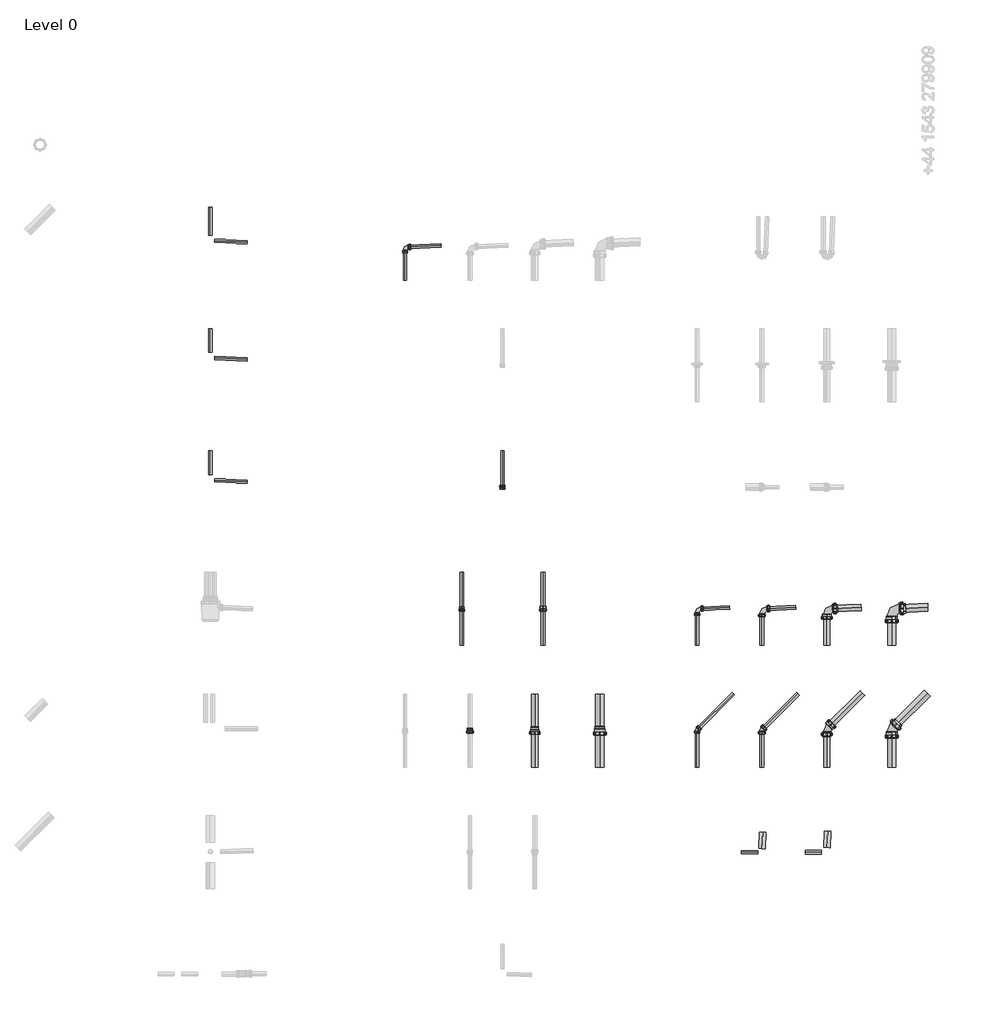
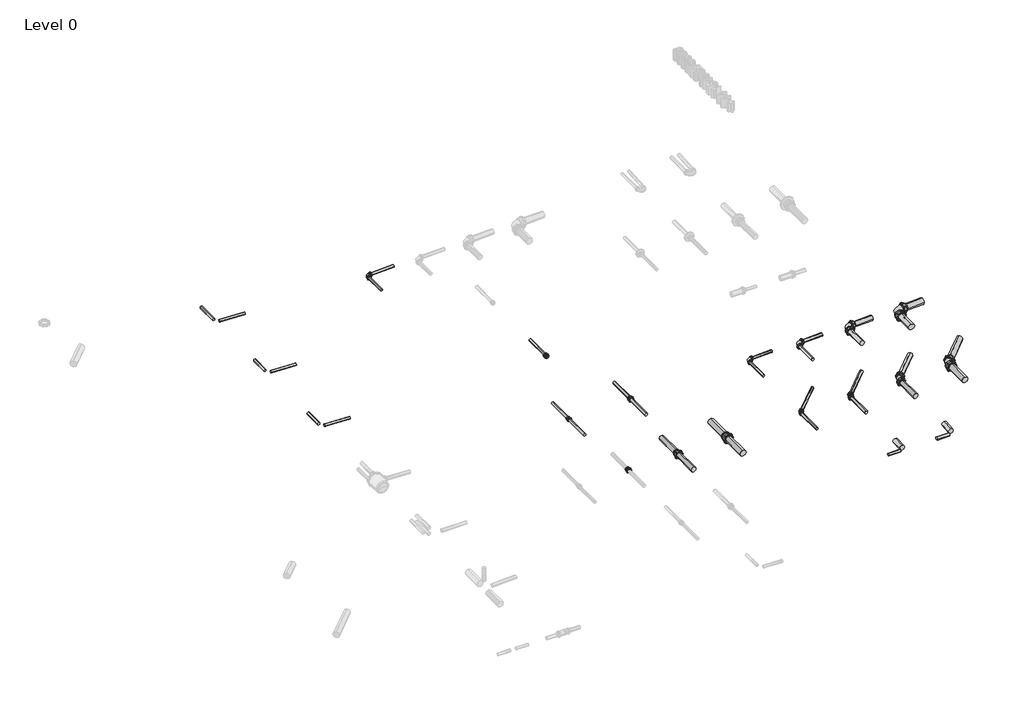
# One storey, part 4 of 5: 52 pipe fittings.
"""IFC4 building model written with IfcOpenShell, lengths in millimetres."""

from ifc_helpers import new_model, si_unit, point, frame, frame_2d, origin, place, context, project, spatial, circle_curve, trimmed, segment, composite_curve, outline, extrude, transform, mapped, element, save
from components import w151_1_5inch_x_38mm_36090209, w152_2inch_x_51mm_c30cc51f, w181_1_5inch_38mm_bc8677d7, w211_1_5inch_38mm_d5a7223a, w212_2inch_51mm_e95d25a4, w213_3inch_76mm_c7faae38, w214_4inch_102mm_c2af0c5c, w271_1_75inch_1_5inch_8b04c7d0, w291_1_5inch_38mm_fd510ec8, w292_2inch_51mm_7eba3630, w293_3inch_76mm_a8444400, w294_4inch_102mm_0dffa293, w452_2inch_51mm_18f54544, w453_3inch_76mm_8e2f73c6, w454_4inch_102mm_2515f706

model = new_model("IFC4")

# Units and contexts
model_context = context("Model", 3, world=origin())
ifc_project = project(units=[si_unit("LENGTHUNIT", "METRE", prefix="MILLI")], contexts=[model_context])

# Site, building, storey
site = spatial("IfcSite", under=ifc_project)
building = spatial("IfcBuilding", under=site)
storey = spatial("IfcBuildingStorey", under=building, Name="Level 0", Elevation=0.0)

# Pipe fittings
placement = place(None, origin())
element("IfcPipeFitting", 1, ObjectType="Vulcathene Mechanical Pipe", at=placement, inside=storey, context=model_context, shape_type="SweptSolid", body=[
    extrude(outline(composite_curve([segment(trimmed(circle_curve(frame_2d((0.0, -14857.9793828)), 20.0), [point((0.0, -14837.9793828))], [point((20.0, -14857.9793828))], False, "CARTESIAN"), True, "CONTINUOUS"), segment(trimmed(circle_curve(frame_2d((0.0, -14857.9793828)), 20.0), [point((20.0, -14857.9793828))], [point((0.0, -14877.9793828))], False, "CARTESIAN"), True, "CONTINUOUS"), segment(trimmed(circle_curve(frame_2d((0.0, -14857.9793828)), 20.0), [point((0.0, -14877.9793828))], [point((-20.0, -14857.9793828))], False, "CARTESIAN"), True, "CONTINUOUS"), segment(trimmed(circle_curve(frame_2d((0.0, -14857.9793828)), 20.0), [point((-20.0, -14857.9793828))], [point((0.0, -14837.9793828))], False, "CARTESIAN"), True, "CONTINUOUS")], self_intersect=False)), frame((0.0, 11769.5002514, 0.0), z_axis=(0.0, 1.0, 0.0), x_axis=(0.0, 0.0, 1.0)), (0.0, 0.0, 1.0), 345.1032519),
])
element("IfcPipeFitting", 2, ObjectType="Vulcathene Mechanical Pipe", at=placement, inside=storey, context=model_context, shape_type="SweptSolid", body=[
    extrude(outline(composite_curve([segment(trimmed(circle_curve(frame_2d((0.0, -20.0)), 20.0), [point((-20.0000001, -20.0))], [point((0.0, 0.0))], False, "CARTESIAN"), True, "CONTINUOUS"), segment(trimmed(circle_curve(frame_2d((0.0, -20.0)), 20.0), [point((0.0, 0.0))], [point((20.0, -20.0))], False, "CARTESIAN"), True, "CONTINUOUS"), segment(trimmed(circle_curve(frame_2d((0.0, -20.0)), 20.0), [point((20.0, -20.0))], [point((0.0, -40.0))], False, "CARTESIAN"), True, "CONTINUOUS"), segment(trimmed(circle_curve(frame_2d((0.0, -20.0)), 20.0), [point((0.0, -40.0))], [point((-20.0000001, -20.0))], False, "CARTESIAN"), True, "CONTINUOUS")], self_intersect=False)), frame((-14406.4030929, 11683.6268621, -20.0), z_axis=(-0.9990482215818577, 0.043619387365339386, 0.0), x_axis=(0.043619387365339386, 0.9990482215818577, 0.0)), (0.0, 0.0, 1.0), 400.0),
])
element("IfcPipeFitting", 3, ObjectType="Vulcathene Mechanical Pipe", at=placement, inside=storey, context=model_context, shape_type="SweptSolid", body=[
    extrude(outline(composite_curve([segment(trimmed(circle_curve(frame_2d((0.0, -14857.9793828)), 20.0), [point((0.0, -14837.9793828))], [point((20.0, -14857.9793828))], False, "CARTESIAN"), True, "CONTINUOUS"), segment(trimmed(circle_curve(frame_2d((0.0, -14857.9793828)), 20.0), [point((20.0, -14857.9793828))], [point((0.0, -14877.9793828))], False, "CARTESIAN"), True, "CONTINUOUS"), segment(trimmed(circle_curve(frame_2d((0.0, -14857.9793828)), 20.0), [point((0.0, -14877.9793828))], [point((-20.0, -14857.9793828))], False, "CARTESIAN"), True, "CONTINUOUS"), segment(trimmed(circle_curve(frame_2d((0.0, -14857.9793828)), 20.0), [point((-20.0, -14857.9793828))], [point((0.0, -14837.9793828))], False, "CARTESIAN"), True, "CONTINUOUS")], self_intersect=False)), frame((0.0, 10325.1964246, 0.0), z_axis=(0.0, 1.0, 0.0), x_axis=(0.0, 0.0, 1.0)), (0.0, 0.0, 1.0), 289.4070787),
])
element("IfcPipeFitting", 4, ObjectType="Vulcathene Mechanical Pipe", at=placement, inside=storey, context=model_context, shape_type="SweptSolid", body=[
    extrude(outline(composite_curve([segment(trimmed(circle_curve(frame_2d((0.0, -20.0)), 20.0), [point((-20.0, -20.0))], [point((0.0, 0.0))], False, "CARTESIAN"), True, "CONTINUOUS"), segment(trimmed(circle_curve(frame_2d((0.0, -20.0)), 20.0), [point((0.0, 0.0))], [point((20.0, -20.0))], False, "CARTESIAN"), True, "CONTINUOUS"), segment(trimmed(circle_curve(frame_2d((0.0, -20.0)), 20.0), [point((20.0, -20.0))], [point((0.0, -40.0))], False, "CARTESIAN"), True, "CONTINUOUS"), segment(trimmed(circle_curve(frame_2d((0.0, -20.0)), 20.0), [point((0.0, -40.0))], [point((-20.0, -20.0))], False, "CARTESIAN"), True, "CONTINUOUS")], self_intersect=False)), frame((-14406.4030929, 10239.3230353, -20.0), z_axis=(-0.9990482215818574, 0.04361938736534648, 0.0), x_axis=(0.04361938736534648, 0.9990482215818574, 0.0)), (0.0, 0.0, 1.0), 400.0),
])
element("IfcPipeFitting", 5, ObjectType="Vulcathene Mechanical Pipe", at=placement, inside=storey, context=model_context, shape_type="SweptSolid", body=[
    extrude(outline(composite_curve([segment(trimmed(circle_curve(frame_2d((0.0, -14857.9793828)), 20.0), [point((0.0, -14837.9793828))], [point((20.0, -14857.9793828))], False, "CARTESIAN"), True, "CONTINUOUS"), segment(trimmed(circle_curve(frame_2d((0.0, -14857.9793828)), 20.0), [point((20.0, -14857.9793828))], [point((0.0, -14877.9793828))], False, "CARTESIAN"), True, "CONTINUOUS"), segment(trimmed(circle_curve(frame_2d((0.0, -14857.9793828)), 20.0), [point((0.0, -14877.9793828))], [point((-20.0, -14857.9793828))], False, "CARTESIAN"), True, "CONTINUOUS"), segment(trimmed(circle_curve(frame_2d((0.0, -14857.9793828)), 20.0), [point((-20.0, -14857.9793828))], [point((0.0, -14837.9793828))], False, "CARTESIAN"), True, "CONTINUOUS")], self_intersect=False)), frame((0.0, 8817.8160033, 0.0), z_axis=(0.0, 1.0, 0.0), x_axis=(0.0, 0.0, 1.0)), (0.0, 0.0, 1.0), 296.7875),
])
element("IfcPipeFitting", 6, ObjectType="Vulcathene Mechanical Pipe", at=placement, inside=storey, context=model_context, shape_type="SweptSolid", body=[
    extrude(outline(composite_curve([segment(trimmed(circle_curve(frame_2d((0.0, -20.0)), 20.0), [point((-20.0000001, -20.0))], [point((0.0, 0.0))], False, "CARTESIAN"), True, "CONTINUOUS"), segment(trimmed(circle_curve(frame_2d((0.0, -20.0)), 20.0), [point((0.0, 0.0))], [point((20.0, -20.0))], False, "CARTESIAN"), True, "CONTINUOUS"), segment(trimmed(circle_curve(frame_2d((0.0, -20.0)), 20.0), [point((20.0, -20.0))], [point((0.0, -40.0))], False, "CARTESIAN"), True, "CONTINUOUS"), segment(trimmed(circle_curve(frame_2d((0.0, -20.0)), 20.0), [point((0.0, -40.0))], [point((-20.0000001, -20.0))], False, "CARTESIAN"), True, "CONTINUOUS")], self_intersect=False)), frame((-14406.4030929, 8731.942614, -20.0), z_axis=(-0.9990482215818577, 0.043619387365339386, 0.0), x_axis=(0.043619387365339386, 0.9990482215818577, 0.0)), (0.0, 0.0, 1.0), 400.0),
])
element("IfcPipeFitting", 7, ObjectType="Vulcathene Mechanical Pipe", at=placement, inside=storey, context=model_context, shape_type="SweptSolid", body=[
    extrude(outline(composite_curve([segment(trimmed(circle_curve(frame_2d((0.0, -12457.8061586)), 20.0), [point((0.0, -12437.8061586))], [point((20.0, -12457.8061586))], False, "CARTESIAN"), True, "CONTINUOUS"), segment(trimmed(circle_curve(frame_2d((0.0, -12457.8061586)), 20.0), [point((20.0, -12457.8061586))], [point((0.0, -12477.8061586))], False, "CARTESIAN"), True, "CONTINUOUS"), segment(trimmed(circle_curve(frame_2d((0.0, -12457.8061586)), 20.0), [point((0.0, -12477.8061586))], [point((-20.0, -12457.8061586))], False, "CARTESIAN"), True, "CONTINUOUS"), segment(trimmed(circle_curve(frame_2d((0.0, -12457.8061586)), 20.0), [point((-20.0, -12457.8061586))], [point((0.0, -12437.8061586))], False, "CARTESIAN"), True, "CONTINUOUS")], self_intersect=False)), frame((0.0, 11214.6035033, 0.0), z_axis=(0.0, 1.0, 0.0), x_axis=(0.0, 0.0, 1.0)), (0.0, 0.0, 1.0), 368.2978662),
])
element("IfcPipeFitting", 8, ObjectType="Vulcathene Mechanical Pipe", at=placement, inside=storey, context=model_context, shape_type="SweptSolid", body=[
    extrude(outline(composite_curve([segment(trimmed(circle_curve(frame_2d((0.0, 20.0)), 20.0), [point((20.0, 20.0))], [point((0.0, 0.0))], False, "CARTESIAN"), True, "CONTINUOUS"), segment(trimmed(circle_curve(frame_2d((0.0, 20.0)), 20.0), [point((0.0, 0.0))], [point((-20.0, 20.0))], False, "CARTESIAN"), True, "CONTINUOUS"), segment(trimmed(circle_curve(frame_2d((0.0, 20.0)), 20.0), [point((-20.0, 20.0))], [point((0.0, 40.0))], False, "CARTESIAN"), True, "CONTINUOUS"), segment(trimmed(circle_curve(frame_2d((0.0, 20.0)), 20.0), [point((0.0, 40.0))], [point((20.0, 20.0))], False, "CARTESIAN"), True, "CONTINUOUS")], self_intersect=False)), frame((-12417.3512586, 11625.1611092, 20.0), z_axis=(0.9990482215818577, 0.043619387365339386, 0.0), x_axis=(0.043619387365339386, -0.9990482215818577, 0.0)), (0.0, 0.0, 1.0), 401.7127644),
])
element("IfcPipeFitting", 9, ObjectType="Vulcathene Mechanical Pipe", at=placement, inside=storey, context=model_context, shape_type="SweptSolid", body=[
    extrude(outline(composite_curve([segment(trimmed(circle_curve(frame_2d((0.0, -11257.9793828)), 20.0), [point((0.0, -11237.9793828))], [point((20.0, -11257.9793828))], False, "CARTESIAN"), True, "CONTINUOUS"), segment(trimmed(circle_curve(frame_2d((0.0, -11257.9793828)), 20.0), [point((20.0, -11257.9793828))], [point((0.0, -11277.9793828))], False, "CARTESIAN"), True, "CONTINUOUS"), segment(trimmed(circle_curve(frame_2d((0.0, -11257.9793828)), 20.0), [point((0.0, -11277.9793828))], [point((-20.0, -11257.9793828))], False, "CARTESIAN"), True, "CONTINUOUS"), segment(trimmed(circle_curve(frame_2d((0.0, -11257.9793828)), 20.0), [point((-20.0, -11257.9793828))], [point((0.0, -11237.9793828))], False, "CARTESIAN"), True, "CONTINUOUS")], self_intersect=False)), frame((0.0, 8669.1035033, 0.0), z_axis=(0.0, 1.0, 0.0), x_axis=(0.0, 0.0, 1.0)), (0.0, 0.0, 1.0), 445.5),
])
element("IfcPipeFitting", 10, ObjectType="Vulcathene Mechanical Pipe", at=placement, inside=storey, context=model_context, shape_type="SweptSolid", body=[
    extrude(outline(composite_curve([segment(trimmed(circle_curve(frame_2d((0.0, -11757.9793828)), 20.0), [point((0.0, -11777.9793828))], [point((-20.0, -11757.9793828))], False, "CARTESIAN"), True, "CONTINUOUS"), segment(trimmed(circle_curve(frame_2d((0.0, -11757.9793828)), 20.0), [point((-20.0, -11757.9793828))], [point((0.0, -11737.9793828))], False, "CARTESIAN"), True, "CONTINUOUS"), segment(trimmed(circle_curve(frame_2d((0.0, -11757.9793828)), 20.0), [point((0.0, -11737.9793828))], [point((20.0, -11757.9793828))], False, "CARTESIAN"), True, "CONTINUOUS"), segment(trimmed(circle_curve(frame_2d((0.0, -11757.9793828)), 20.0), [point((20.0, -11757.9793828))], [point((0.0, -11777.9793828))], False, "CARTESIAN"), True, "CONTINUOUS")], self_intersect=False)), frame((0.0, 6714.6035033, 0.0), z_axis=(0.0, 1.0, 0.0), x_axis=(0.0, 0.0, 1.0)), (0.0, 0.0, 1.0), 450.7),
])
element("IfcPipeFitting", 11, ObjectType="Vulcathene Mechanical Pipe", at=placement, inside=storey, context=model_context, shape_type="SweptSolid", body=[
    extrude(outline(composite_curve([segment(trimmed(circle_curve(frame_2d((0.0, -10757.9793828)), 25.0), [point((0.0, -10782.9793828))], [point((-25.0, -10757.9793828))], False, "CARTESIAN"), True, "CONTINUOUS"), segment(trimmed(circle_curve(frame_2d((0.0, -10757.9793828)), 25.0), [point((-25.0, -10757.9793828))], [point((0.0, -10732.9793828))], False, "CARTESIAN"), True, "CONTINUOUS"), segment(trimmed(circle_curve(frame_2d((0.0, -10757.9793828)), 25.0), [point((0.0, -10732.9793828))], [point((25.0, -10757.9793828))], False, "CARTESIAN"), True, "CONTINUOUS"), segment(trimmed(circle_curve(frame_2d((0.0, -10757.9793828)), 25.0), [point((25.0, -10757.9793828))], [point((0.0, -10782.9793828))], False, "CARTESIAN"), True, "CONTINUOUS")], self_intersect=False)), frame((0.0, 6714.6035033, 0.0), z_axis=(0.0, 1.0, 0.0), x_axis=(0.0, 0.0, 1.0)), (0.0, 0.0, 1.0), 449.75),
])
element("IfcPipeFitting", 12, ObjectType="Vulcathene Mechanical Pipe", at=placement, inside=storey, context=model_context, shape_type="SweptSolid", body=[
    extrude(outline(composite_curve([segment(trimmed(circle_curve(frame_2d((0.0, -11757.9793828)), 20.0), [point((0.0, -11777.9793828))], [point((-20.0, -11757.9793828))], False, "CARTESIAN"), True, "CONTINUOUS"), segment(trimmed(circle_curve(frame_2d((0.0, -11757.9793828)), 20.0), [point((-20.0, -11757.9793828))], [point((0.0, -11737.9793828))], False, "CARTESIAN"), True, "CONTINUOUS"), segment(trimmed(circle_curve(frame_2d((0.0, -11757.9793828)), 20.0), [point((0.0, -11737.9793828))], [point((20.0, -11757.9793828))], False, "CARTESIAN"), True, "CONTINUOUS"), segment(trimmed(circle_curve(frame_2d((0.0, -11757.9793828)), 20.0), [point((20.0, -11757.9793828))], [point((0.0, -11777.9793828))], False, "CARTESIAN"), True, "CONTINUOUS")], self_intersect=False)), frame((0.0, 7168.0035033, 0.0), z_axis=(0.0, 1.0, 0.0), x_axis=(0.0, 0.0, 1.0)), (0.0, 0.0, 1.0), 446.6),
])
element("IfcPipeFitting", 13, ObjectType="Vulcathene Mechanical Pipe", at=placement, inside=storey, context=model_context, shape_type="SweptSolid", body=[
    extrude(outline(composite_curve([segment(trimmed(circle_curve(frame_2d((0.0, -10757.9793828)), 25.0), [point((0.0, -10782.9793828))], [point((-25.0, -10757.9793828))], False, "CARTESIAN"), True, "CONTINUOUS"), segment(trimmed(circle_curve(frame_2d((0.0, -10757.9793828)), 25.0), [point((-25.0, -10757.9793828))], [point((0.0, -10732.9793828))], False, "CARTESIAN"), True, "CONTINUOUS"), segment(trimmed(circle_curve(frame_2d((0.0, -10757.9793828)), 25.0), [point((0.0, -10732.9793828))], [point((25.0, -10757.9793828))], False, "CARTESIAN"), True, "CONTINUOUS"), segment(trimmed(circle_curve(frame_2d((0.0, -10757.9793828)), 25.0), [point((25.0, -10757.9793828))], [point((0.0, -10782.9793828))], False, "CARTESIAN"), True, "CONTINUOUS")], self_intersect=False)), frame((0.0, 7169.3535033, 0.0), z_axis=(0.0, 1.0, 0.0), x_axis=(0.0, 0.0, 1.0)), (0.0, 0.0, 1.0), 445.25),
])
element("IfcPipeFitting", 14, ObjectType="Vulcathene Mechanical Pipe", at=placement, inside=storey, context=model_context, shape_type="SweptSolid", body=[
    extrude(outline(composite_curve([segment(trimmed(circle_curve(frame_2d((0.0, -10857.9793828)), 40.0), [point((0.0, -10897.9793828))], [point((-40.0, -10857.9793828))], False, "CARTESIAN"), True, "CONTINUOUS"), segment(trimmed(circle_curve(frame_2d((0.0, -10857.9793828)), 40.0), [point((-40.0, -10857.9793828))], [point((0.0, -10817.9793828))], False, "CARTESIAN"), True, "CONTINUOUS"), segment(trimmed(circle_curve(frame_2d((0.0, -10857.9793828)), 40.0), [point((0.0, -10817.9793828))], [point((40.0, -10857.9793828))], False, "CARTESIAN"), True, "CONTINUOUS"), segment(trimmed(circle_curve(frame_2d((0.0, -10857.9793828)), 40.0), [point((40.0, -10857.9793828))], [point((0.0, -10897.9793828))], False, "CARTESIAN"), True, "CONTINUOUS")], self_intersect=False)), frame((0.0, 5214.6035033, 0.0), z_axis=(0.0, 1.0, 0.0), x_axis=(0.0, 0.0, 1.0)), (0.0, 0.0, 1.0), 458.4),
])
element("IfcPipeFitting", 15, ObjectType="Vulcathene Mechanical Pipe", at=placement, inside=storey, context=model_context, shape_type="SweptSolid", body=[
    extrude(outline(composite_curve([segment(trimmed(circle_curve(frame_2d((0.0, -10057.9793828)), 50.0), [point((0.0, -10107.9793828))], [point((-50.0, -10057.9793828))], False, "CARTESIAN"), True, "CONTINUOUS"), segment(trimmed(circle_curve(frame_2d((0.0, -10057.9793828)), 50.0), [point((-50.0, -10057.9793828))], [point((0.0, -10007.9793828))], False, "CARTESIAN"), True, "CONTINUOUS"), segment(trimmed(circle_curve(frame_2d((0.0, -10057.9793828)), 50.0), [point((0.0, -10007.9793828))], [point((50.0, -10057.9793828))], False, "CARTESIAN"), True, "CONTINUOUS"), segment(trimmed(circle_curve(frame_2d((0.0, -10057.9793828)), 50.0), [point((50.0, -10057.9793828))], [point((0.0, -10107.9793828))], False, "CARTESIAN"), True, "CONTINUOUS")], self_intersect=False)), frame((0.0, 5214.6035033, 0.0), z_axis=(0.0, 1.0, 0.0), x_axis=(0.0, 0.0, 1.0)), (0.0, 0.0, 1.0), 467.3),
])
element("IfcPipeFitting", 16, ObjectType="Vulcathene Mechanical Pipe", at=placement, inside=storey, context=model_context, shape_type="SweptSolid", body=[
    extrude(outline(composite_curve([segment(trimmed(circle_curve(frame_2d((0.0, -10857.9793828)), 40.0), [point((0.0, -10897.9793828))], [point((-40.0, -10857.9793828))], False, "CARTESIAN"), True, "CONTINUOUS"), segment(trimmed(circle_curve(frame_2d((0.0, -10857.9793828)), 40.0), [point((-40.0, -10857.9793828))], [point((0.0, -10817.9793828))], False, "CARTESIAN"), True, "CONTINUOUS"), segment(trimmed(circle_curve(frame_2d((0.0, -10857.9793828)), 40.0), [point((0.0, -10817.9793828))], [point((40.0, -10857.9793828))], False, "CARTESIAN"), True, "CONTINUOUS"), segment(trimmed(circle_curve(frame_2d((0.0, -10857.9793828)), 40.0), [point((40.0, -10857.9793828))], [point((0.0, -10897.9793828))], False, "CARTESIAN"), True, "CONTINUOUS")], self_intersect=False)), frame((0.0, 5711.1035033, 0.0), z_axis=(0.0, 1.0, 0.0), x_axis=(0.0, 0.0, 1.0)), (0.0, 0.0, 1.0), 403.5),
])
element("IfcPipeFitting", 17, ObjectType="Vulcathene Mechanical Pipe", at=placement, inside=storey, context=model_context, shape_type="SweptSolid", body=[
    extrude(outline(composite_curve([segment(trimmed(circle_curve(frame_2d((0.0, -10057.9793828)), 50.0), [point((0.0, -10107.9793828))], [point((-50.0, -10057.9793828))], False, "CARTESIAN"), True, "CONTINUOUS"), segment(trimmed(circle_curve(frame_2d((0.0, -10057.9793828)), 50.0), [point((-50.0, -10057.9793828))], [point((0.0, -10007.9793828))], False, "CARTESIAN"), True, "CONTINUOUS"), segment(trimmed(circle_curve(frame_2d((0.0, -10057.9793828)), 50.0), [point((0.0, -10007.9793828))], [point((50.0, -10057.9793828))], False, "CARTESIAN"), True, "CONTINUOUS"), segment(trimmed(circle_curve(frame_2d((0.0, -10057.9793828)), 50.0), [point((50.0, -10057.9793828))], [point((0.0, -10107.9793828))], False, "CARTESIAN"), True, "CONTINUOUS")], self_intersect=False)), frame((0.0, 5720.1035033, 0.0), z_axis=(0.0, 1.0, 0.0), x_axis=(0.0, 0.0, 1.0)), (0.0, 0.0, 1.0), 394.5),
])
element("IfcPipeFitting", 18, ObjectType="Vulcathene Mechanical Pipe", at=placement, inside=storey, context=model_context, shape_type="SweptSolid", body=[
    extrude(outline(composite_curve([segment(trimmed(circle_curve(frame_2d((0.0, -8857.9793828)), 20.0), [point((0.0, -8837.9793828))], [point((20.0, -8857.9793828))], False, "CARTESIAN"), True, "CONTINUOUS"), segment(trimmed(circle_curve(frame_2d((0.0, -8857.9793828)), 20.0), [point((20.0, -8857.9793828))], [point((0.0, -8877.9793828))], False, "CARTESIAN"), True, "CONTINUOUS"), segment(trimmed(circle_curve(frame_2d((0.0, -8857.9793828)), 20.0), [point((0.0, -8877.9793828))], [point((-20.0, -8857.9793828))], False, "CARTESIAN"), True, "CONTINUOUS"), segment(trimmed(circle_curve(frame_2d((0.0, -8857.9793828)), 20.0), [point((-20.0, -8857.9793828))], [point((0.0, -8837.9793828))], False, "CARTESIAN"), True, "CONTINUOUS")], self_intersect=False)), frame((0.0, 6714.6035033, 0.0), z_axis=(0.0, 1.0, 0.0), x_axis=(0.0, 0.0, 1.0)), (0.0, 0.0, 1.0), 398.5920922),
])
element("IfcPipeFitting", 19, ObjectType="Vulcathene Mechanical Pipe", at=placement, inside=storey, context=model_context, shape_type="SweptSolid", body=[
    extrude(outline(composite_curve([segment(trimmed(circle_curve(frame_2d((0.0, 20.0)), 20.0), [point((20.0000001, 20.0))], [point((0.0, 0.0))], False, "CARTESIAN"), True, "CONTINUOUS"), segment(trimmed(circle_curve(frame_2d((0.0, 20.0)), 20.0), [point((0.0, 0.0))], [point((-20.0, 20.0))], False, "CARTESIAN"), True, "CONTINUOUS"), segment(trimmed(circle_curve(frame_2d((0.0, 20.0)), 20.0), [point((-20.0, 20.0))], [point((0.0, 40.0))], False, "CARTESIAN"), True, "CONTINUOUS"), segment(trimmed(circle_curve(frame_2d((0.0, 20.0)), 20.0), [point((0.0, 40.0))], [point((20.0000001, 20.0))], False, "CARTESIAN"), True, "CONTINUOUS")], self_intersect=False)), frame((-8806.6217439, 7166.844485, 20.0), z_axis=(0.9990482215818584, 0.04361938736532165, 0.0), x_axis=(0.04361938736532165, -0.9990482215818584, 0.0)), (0.0, 0.0, 1.0), 350.0),
])
element("IfcPipeFitting", 20, ObjectType="Vulcathene Mechanical Pipe", at=placement, inside=storey, context=model_context, shape_type="SweptSolid", body=[
    extrude(outline(composite_curve([segment(trimmed(circle_curve(frame_2d((0.0, -8057.9793828)), 25.0), [point((0.0, -8032.9793828))], [point((25.0, -8057.9793828))], False, "CARTESIAN"), True, "CONTINUOUS"), segment(trimmed(circle_curve(frame_2d((0.0, -8057.9793828)), 25.0), [point((25.0, -8057.9793828))], [point((0.0, -8082.9793828))], False, "CARTESIAN"), True, "CONTINUOUS"), segment(trimmed(circle_curve(frame_2d((0.0, -8057.9793828)), 25.0), [point((0.0, -8082.9793828))], [point((-25.0, -8057.9793828))], False, "CARTESIAN"), True, "CONTINUOUS"), segment(trimmed(circle_curve(frame_2d((0.0, -8057.9793828)), 25.0), [point((-25.0, -8057.9793828))], [point((0.0, -8032.9793828))], False, "CARTESIAN"), True, "CONTINUOUS")], self_intersect=False)), frame((0.0, 6714.6035033, 0.0), z_axis=(0.0, 1.0, 0.0), x_axis=(0.0, 0.0, 1.0)), (0.0, 0.0, 1.0), 384.6156328),
])
element("IfcPipeFitting", 21, ObjectType="Vulcathene Mechanical Pipe", at=placement, inside=storey, context=model_context, shape_type="SweptSolid", body=[
    extrude(outline(composite_curve([segment(trimmed(circle_curve(frame_2d((0.0, 25.0)), 25.0), [point((25.0000001, 25.0))], [point((0.0, 0.0))], False, "CARTESIAN"), True, "CONTINUOUS"), segment(trimmed(circle_curve(frame_2d((0.0, 25.0)), 25.0), [point((0.0, 0.0))], [point((-25.0, 25.0))], False, "CARTESIAN"), True, "CONTINUOUS"), segment(trimmed(circle_curve(frame_2d((0.0, 25.0)), 25.0), [point((-25.0, 25.0))], [point((0.0, 50.0))], False, "CARTESIAN"), True, "CONTINUOUS"), segment(trimmed(circle_curve(frame_2d((0.0, 25.0)), 25.0), [point((0.0, 50.0))], [point((25.0000001, 25.0))], False, "CARTESIAN"), True, "CONTINUOUS")], self_intersect=False)), frame((-7992.658587, 7167.4541296, 25.0), z_axis=(0.9990482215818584, 0.0436193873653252, 0.0), x_axis=(0.0436193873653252, -0.9990482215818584, 0.0)), (0.0, 0.0, 1.0), 350.0),
])
element("IfcPipeFitting", 22, ObjectType="Vulcathene Mechanical Pipe", at=placement, inside=storey, context=model_context, shape_type="SweptSolid", body=[
    extrude(outline(composite_curve([segment(trimmed(circle_curve(frame_2d((0.0, -7257.9793828)), 40.0), [point((0.0, -7217.9793828))], [point((40.0, -7257.9793828))], False, "CARTESIAN"), True, "CONTINUOUS"), segment(trimmed(circle_curve(frame_2d((0.0, -7257.9793828)), 40.0), [point((40.0, -7257.9793828))], [point((0.0, -7297.9793828))], False, "CARTESIAN"), True, "CONTINUOUS"), segment(trimmed(circle_curve(frame_2d((0.0, -7257.9793828)), 40.0), [point((0.0, -7297.9793828))], [point((-40.0, -7257.9793828))], False, "CARTESIAN"), True, "CONTINUOUS"), segment(trimmed(circle_curve(frame_2d((0.0, -7257.9793828)), 40.0), [point((-40.0, -7257.9793828))], [point((0.0, -7217.9793828))], False, "CARTESIAN"), True, "CONTINUOUS")], self_intersect=False)), frame((0.0, 6714.6035033, 0.0), z_axis=(0.0, 1.0, 0.0), x_axis=(0.0, 0.0, 1.0)), (0.0, 0.0, 1.0), 377.4359447),
])
element("IfcPipeFitting", 23, ObjectType="Vulcathene Mechanical Pipe", at=placement, inside=storey, context=model_context, shape_type="SweptSolid", body=[
    extrude(outline(composite_curve([segment(trimmed(circle_curve(frame_2d((0.0, 40.0)), 40.0), [point((40.0, 40.0))], [point((0.0, 0.0))], False, "CARTESIAN"), True, "CONTINUOUS"), segment(trimmed(circle_curve(frame_2d((0.0, 40.0)), 40.0), [point((0.0, 0.0))], [point((-39.9999999, 40.0))], False, "CARTESIAN"), True, "CONTINUOUS"), segment(trimmed(circle_curve(frame_2d((0.0, 40.0)), 40.0), [point((-39.9999999, 40.0))], [point((0.0, 80.0))], False, "CARTESIAN"), True, "CONTINUOUS"), segment(trimmed(circle_curve(frame_2d((0.0, 40.0)), 40.0), [point((0.0, 80.0))], [point((40.0, 40.0))], False, "CARTESIAN"), True, "CONTINUOUS")], self_intersect=False)), frame((-7185.4857324, 7167.7673032, 40.0), z_axis=(0.9990482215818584, 0.0436193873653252, 0.0), x_axis=(0.0436193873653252, -0.9990482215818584, 0.0)), (0.0, 0.0, 1.0), 350.0),
])
element("IfcPipeFitting", 24, ObjectType="Vulcathene Mechanical Pipe", at=placement, inside=storey, context=model_context, shape_type="SweptSolid", body=[
    extrude(outline(composite_curve([segment(trimmed(circle_curve(frame_2d((0.0, -6457.9793828)), 50.0), [point((0.0, -6407.9793828))], [point((50.0, -6457.9793828))], False, "CARTESIAN"), True, "CONTINUOUS"), segment(trimmed(circle_curve(frame_2d((0.0, -6457.9793828)), 50.0), [point((50.0, -6457.9793828))], [point((0.0, -6507.9793828))], False, "CARTESIAN"), True, "CONTINUOUS"), segment(trimmed(circle_curve(frame_2d((0.0, -6457.9793828)), 50.0), [point((0.0, -6507.9793828))], [point((-50.0, -6457.9793828))], False, "CARTESIAN"), True, "CONTINUOUS"), segment(trimmed(circle_curve(frame_2d((0.0, -6457.9793828)), 50.0), [point((-50.0, -6457.9793828))], [point((0.0, -6407.9793828))], False, "CARTESIAN"), True, "CONTINUOUS")], self_intersect=False)), frame((0.0, 6714.6035033, 0.0), z_axis=(0.0, 1.0, 0.0), x_axis=(0.0, 0.0, 1.0)), (0.0, 0.0, 1.0), 354.2694846),
])
element("IfcPipeFitting", 25, ObjectType="Vulcathene Mechanical Pipe", at=placement, inside=storey, context=model_context, shape_type="SweptSolid", body=[
    extrude(outline(composite_curve([segment(trimmed(circle_curve(frame_2d((0.0, 50.0)), 50.0), [point((50.0, 50.0))], [point((0.0, 0.0))], False, "CARTESIAN"), True, "CONTINUOUS"), segment(trimmed(circle_curve(frame_2d((0.0, 50.0)), 50.0), [point((0.0, 0.0))], [point((-50.0, 50.0))], False, "CARTESIAN"), True, "CONTINUOUS"), segment(trimmed(circle_curve(frame_2d((0.0, 50.0)), 50.0), [point((-50.0, 50.0))], [point((0.0, 100.0))], False, "CARTESIAN"), True, "CONTINUOUS"), segment(trimmed(circle_curve(frame_2d((0.0, 50.0)), 50.0), [point((0.0, 100.0))], [point((50.0, 50.0))], False, "CARTESIAN"), True, "CONTINUOUS")], self_intersect=False)), frame((-6362.3413216, 7168.77781, 50.0), z_axis=(0.9990482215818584, 0.04361938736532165, 0.0), x_axis=(0.04361938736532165, -0.9990482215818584, 0.0)), (0.0, 0.0, 1.0), 350.0),
])
element("IfcPipeFitting", 26, ObjectType="Vulcathene Mechanical Pipe", at=placement, inside=storey, context=model_context, shape_type="SweptSolid", body=[
    extrude(outline(composite_curve([segment(trimmed(circle_curve(frame_2d((0.0, -8857.9793828)), 20.0), [point((0.0, -8877.9793828))], [point((-20.0, -8857.9793828))], False, "CARTESIAN"), True, "CONTINUOUS"), segment(trimmed(circle_curve(frame_2d((0.0, -8857.9793828)), 20.0), [point((-20.0, -8857.9793828))], [point((0.0, -8837.9793828))], False, "CARTESIAN"), True, "CONTINUOUS"), segment(trimmed(circle_curve(frame_2d((0.0, -8857.9793828)), 20.0), [point((0.0, -8837.9793828))], [point((20.0, -8857.9793828))], False, "CARTESIAN"), True, "CONTINUOUS"), segment(trimmed(circle_curve(frame_2d((0.0, -8857.9793828)), 20.0), [point((20.0, -8857.9793828))], [point((0.0, -8877.9793828))], False, "CARTESIAN"), True, "CONTINUOUS")], self_intersect=False)), frame((0.0, 5214.6035033, 0.0), z_axis=(0.0, 1.0, 0.0), x_axis=(0.0, 0.0, 1.0)), (0.0, 0.0, 1.0), 440.7581955),
])
element("IfcPipeFitting", 27, ObjectType="Vulcathene Mechanical Pipe", at=placement, inside=storey, context=model_context, shape_type="SweptSolid", body=[
    extrude(outline(composite_curve([segment(trimmed(circle_curve(frame_2d((0.0, -8057.9793828)), 25.0), [point((0.0, -8082.9793828))], [point((-25.0, -8057.9793828))], False, "CARTESIAN"), True, "CONTINUOUS"), segment(trimmed(circle_curve(frame_2d((0.0, -8057.9793828)), 25.0), [point((-25.0, -8057.9793828))], [point((0.0, -8032.9793828))], False, "CARTESIAN"), True, "CONTINUOUS"), segment(trimmed(circle_curve(frame_2d((0.0, -8057.9793828)), 25.0), [point((0.0, -8032.9793828))], [point((25.0, -8057.9793828))], False, "CARTESIAN"), True, "CONTINUOUS"), segment(trimmed(circle_curve(frame_2d((0.0, -8057.9793828)), 25.0), [point((25.0, -8057.9793828))], [point((0.0, -8082.9793828))], False, "CARTESIAN"), True, "CONTINUOUS")], self_intersect=False)), frame((0.0, 5214.6035033, 0.0), z_axis=(0.0, 1.0, 0.0), x_axis=(0.0, 0.0, 1.0)), (0.0, 0.0, 1.0), 440.2129194),
])
element("IfcPipeFitting", 28, ObjectType="Vulcathene Mechanical Pipe", at=placement, inside=storey, context=model_context, shape_type="SweptSolid", body=[
    extrude(outline(composite_curve([segment(trimmed(circle_curve(frame_2d((0.0, -7257.9793828)), 40.0), [point((0.0, -7297.9793828))], [point((-40.0, -7257.9793828))], False, "CARTESIAN"), True, "CONTINUOUS"), segment(trimmed(circle_curve(frame_2d((0.0, -7257.9793828)), 40.0), [point((-40.0, -7257.9793828))], [point((0.0, -7217.9793828))], False, "CARTESIAN"), True, "CONTINUOUS"), segment(trimmed(circle_curve(frame_2d((0.0, -7257.9793828)), 40.0), [point((0.0, -7217.9793828))], [point((40.0, -7257.9793828))], False, "CARTESIAN"), True, "CONTINUOUS"), segment(trimmed(circle_curve(frame_2d((0.0, -7257.9793828)), 40.0), [point((40.0, -7257.9793828))], [point((0.0, -7297.9793828))], False, "CARTESIAN"), True, "CONTINUOUS")], self_intersect=False)), frame((0.0, 5214.6035033, 0.0), z_axis=(0.0, 1.0, 0.0), x_axis=(0.0, 0.0, 1.0)), (0.0, 0.0, 1.0), 430.1351943),
])
element("IfcPipeFitting", 29, ObjectType="Vulcathene Mechanical Pipe", at=placement, inside=storey, context=model_context, shape_type="SweptSolid", body=[
    extrude(outline(composite_curve([segment(trimmed(circle_curve(frame_2d((0.0, -6457.9793828)), 50.0), [point((0.0, -6507.9793828))], [point((-50.0, -6457.9793828))], False, "CARTESIAN"), True, "CONTINUOUS"), segment(trimmed(circle_curve(frame_2d((0.0, -6457.9793828)), 50.0), [point((-50.0, -6457.9793828))], [point((0.0, -6407.9793828))], False, "CARTESIAN"), True, "CONTINUOUS"), segment(trimmed(circle_curve(frame_2d((0.0, -6457.9793828)), 50.0), [point((0.0, -6407.9793828))], [point((50.0, -6457.9793828))], False, "CARTESIAN"), True, "CONTINUOUS"), segment(trimmed(circle_curve(frame_2d((0.0, -6457.9793828)), 50.0), [point((50.0, -6457.9793828))], [point((0.0, -6507.9793828))], False, "CARTESIAN"), True, "CONTINUOUS")], self_intersect=False)), frame((0.0, 5214.6035033, 0.0), z_axis=(0.0, 1.0, 0.0), x_axis=(0.0, 0.0, 1.0)), (0.0, 0.0, 1.0), 432.2492621),
])
element("IfcPipeFitting", 30, ObjectType="Vulcathene Mechanical Pipe", at=placement, inside=storey, context=model_context, shape_type="SweptSolid", body=[
    extrude(outline(composite_curve([segment(trimmed(circle_curve(frame_2d((0.0, 20.0)), 20.0), [point((20.0, 20.0))], [point((0.0, 0.0))], False, "CARTESIAN"), True, "CONTINUOUS"), segment(trimmed(circle_curve(frame_2d((0.0, 20.0)), 20.0), [point((0.0, 0.0))], [point((-20.0, 20.0))], False, "CARTESIAN"), True, "CONTINUOUS"), segment(trimmed(circle_curve(frame_2d((0.0, 20.0)), 20.0), [point((-20.0, 20.0))], [point((0.0, 40.0))], False, "CARTESIAN"), True, "CONTINUOUS"), segment(trimmed(circle_curve(frame_2d((0.0, 20.0)), 20.0), [point((0.0, 40.0))], [point((20.0, 20.0))], False, "CARTESIAN"), True, "CONTINUOUS")], self_intersect=False)), frame((-8845.7364463, 5684.9187623, 20.0), z_axis=(0.7071067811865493, 0.7071067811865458, 0.0), x_axis=(0.7071067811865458, -0.7071067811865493, 0.0)), (0.0, 0.0, 1.0), 613.3998116),
])
element("IfcPipeFitting", 31, ObjectType="Vulcathene Mechanical Pipe", at=placement, inside=storey, context=model_context, shape_type="SweptSolid", body=[
    extrude(outline(composite_curve([segment(trimmed(circle_curve(frame_2d((0.0, 25.0)), 25.0), [point((25.0, 25.0))], [point((0.0, 0.0))], False, "CARTESIAN"), True, "CONTINUOUS"), segment(trimmed(circle_curve(frame_2d((0.0, 25.0)), 25.0), [point((0.0, 0.0))], [point((-25.0, 25.0))], False, "CARTESIAN"), True, "CONTINUOUS"), segment(trimmed(circle_curve(frame_2d((0.0, 25.0)), 25.0), [point((-25.0, 25.0))], [point((0.0, 50.0))], False, "CARTESIAN"), True, "CONTINUOUS"), segment(trimmed(circle_curve(frame_2d((0.0, 25.0)), 25.0), [point((0.0, 50.0))], [point((25.0, 25.0))], False, "CARTESIAN"), True, "CONTINUOUS")], self_intersect=False)), frame((-8043.9205083, 5688.7575482, 25.0), z_axis=(0.7071067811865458, 0.7071067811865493, 0.0), x_axis=(0.7071067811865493, -0.7071067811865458, 0.0)), (0.0, 0.0, 1.0), 609.4159765),
])
element("IfcPipeFitting", 32, ObjectType="Vulcathene Mechanical Pipe", at=placement, inside=storey, context=model_context, shape_type="SweptSolid", body=[
    extrude(outline(composite_curve([segment(trimmed(circle_curve(frame_2d((0.0, 40.0)), 40.0), [point((40.0, 40.0))], [point((0.0, 0.0))], False, "CARTESIAN"), True, "CONTINUOUS"), segment(trimmed(circle_curve(frame_2d((0.0, 40.0)), 40.0), [point((0.0, 0.0))], [point((-40.0, 40.0))], False, "CARTESIAN"), True, "CONTINUOUS"), segment(trimmed(circle_curve(frame_2d((0.0, 40.0)), 40.0), [point((-40.0, 40.0))], [point((0.0, 80.0))], False, "CARTESIAN"), True, "CONTINUOUS"), segment(trimmed(circle_curve(frame_2d((0.0, 40.0)), 40.0), [point((0.0, 80.0))], [point((40.0, 40.0))], False, "CARTESIAN"), True, "CONTINUOUS")], self_intersect=False)), frame((-7226.9327016, 5719.6920164, 40.0), z_axis=(0.7071067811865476, 0.7071067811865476, 0.0), x_axis=(0.7071067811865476, -0.7071067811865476, 0.0)), (0.0, 0.0, 1.0), 575.7225749),
])
element("IfcPipeFitting", 33, ObjectType="Vulcathene Mechanical Pipe", at=placement, inside=storey, context=model_context, shape_type="SweptSolid", body=[
    extrude(outline(composite_curve([segment(trimmed(circle_curve(frame_2d((0.0, 50.0)), 50.0), [point((50.0, 50.0))], [point((0.0, 0.0))], False, "CARTESIAN"), True, "CONTINUOUS"), segment(trimmed(circle_curve(frame_2d((0.0, 50.0)), 50.0), [point((0.0, 0.0))], [point((-50.0, 50.0))], False, "CARTESIAN"), True, "CONTINUOUS"), segment(trimmed(circle_curve(frame_2d((0.0, 50.0)), 50.0), [point((-50.0, 50.0))], [point((0.0, 100.0))], False, "CARTESIAN"), True, "CONTINUOUS"), segment(trimmed(circle_curve(frame_2d((0.0, 50.0)), 50.0), [point((0.0, 100.0))], [point((50.0, 50.0))], False, "CARTESIAN"), True, "CONTINUOUS")], self_intersect=False)), frame((-6428.690061, 5717.5634434, 50.0), z_axis=(0.7071067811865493, 0.7071067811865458, 0.0), x_axis=(0.7071067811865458, -0.7071067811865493, 0.0)), (0.0, 0.0, 1.0), 578.4631021),
])
element("IfcPipeFitting", 34, ObjectType="Vulcathene Mechanical Pipe", at=placement, inside=storey, context=model_context, shape_type="SweptSolid", body=[
    extrude(outline(composite_curve([segment(trimmed(circle_curve(frame_2d((4164.602162, 0.0)), 20.0), [point((4144.602162, 0.0))], [point((4164.602162, 20.0))], False, "CARTESIAN"), True, "CONTINUOUS"), segment(trimmed(circle_curve(frame_2d((4164.602162, 0.0)), 20.0), [point((4164.602162, 20.0))], [point((4184.602162, 0.0))], False, "CARTESIAN"), True, "CONTINUOUS"), segment(trimmed(circle_curve(frame_2d((4164.602162, 0.0)), 20.0), [point((4184.602162, 0.0))], [point((4164.602162, -20.0))], False, "CARTESIAN"), True, "CONTINUOUS"), segment(trimmed(circle_curve(frame_2d((4164.602162, 0.0)), 20.0), [point((4164.602162, -20.0))], [point((4144.602162, 0.0))], False, "CARTESIAN"), True, "CONTINUOUS")], self_intersect=False)), frame((-8309.6731369, 0.0, 0.0), z_axis=(1.0, 0.0, 0.0), x_axis=(0.0, 1.0, 0.0)), (0.0, 0.0, 1.0), 200.0),
])
element("IfcPipeFitting", 35, ObjectType="Vulcathene Mechanical Pipe", at=placement, inside=storey, context=model_context, shape_type="SweptSolid", body=[
    extrude(outline(composite_curve([segment(trimmed(circle_curve(frame_2d((0.0, 40.0)), 40.0), [point((40.0, 40.0))], [point((0.0, 0.0))], False, "CARTESIAN"), True, "CONTINUOUS"), segment(trimmed(circle_curve(frame_2d((0.0, 40.0)), 40.0), [point((0.0, 0.0))], [point((-40.0, 40.0))], False, "CARTESIAN"), True, "CONTINUOUS"), segment(trimmed(circle_curve(frame_2d((0.0, 40.0)), 40.0), [point((-40.0, 40.0))], [point((0.0, 80.0))], False, "CARTESIAN"), True, "CONTINUOUS"), segment(trimmed(circle_curve(frame_2d((0.0, 40.0)), 40.0), [point((0.0, 80.0))], [point((40.0, 40.0))], False, "CARTESIAN"), True, "CONTINUOUS")], self_intersect=False)), frame((-8055.9302034, 4211.5360876, 40.0), z_axis=(0.043619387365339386, 0.9990482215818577, 0.0), x_axis=(0.9990482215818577, -0.043619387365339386, 0.0)), (0.0, 0.0, 1.0), 200.0),
])
element("IfcPipeFitting", 36, ObjectType="Vulcathene Mechanical Pipe", at=placement, inside=storey, context=model_context, shape_type="SweptSolid", body=[
    extrude(outline(composite_curve([segment(trimmed(circle_curve(frame_2d((4164.602162, 0.0)), 25.0), [point((4139.602162, 0.0))], [point((4164.602162, 25.0))], False, "CARTESIAN"), True, "CONTINUOUS"), segment(trimmed(circle_curve(frame_2d((4164.602162, 0.0)), 25.0), [point((4164.602162, 25.0))], [point((4189.602162, 0.0))], False, "CARTESIAN"), True, "CONTINUOUS"), segment(trimmed(circle_curve(frame_2d((4164.602162, 0.0)), 25.0), [point((4189.602162, 0.0))], [point((4164.602162, -25.0))], False, "CARTESIAN"), True, "CONTINUOUS"), segment(trimmed(circle_curve(frame_2d((4164.602162, 0.0)), 25.0), [point((4164.602162, -25.0))], [point((4139.602162, 0.0))], False, "CARTESIAN"), True, "CONTINUOUS")], self_intersect=False)), frame((-7523.8410547, 0.0, 0.0), z_axis=(1.0, 0.0, 0.0), x_axis=(0.0, 1.0, 0.0)), (0.0, 0.0, 1.0), 200.0),
])
element("IfcPipeFitting", 37, ObjectType="Vulcathene Mechanical Pipe", at=placement, inside=storey, context=model_context, shape_type="SweptSolid", body=[
    extrude(outline(composite_curve([segment(trimmed(circle_curve(frame_2d((0.0, 40.0)), 40.0), [point((40.0, 40.0))], [point((0.0, 0.0))], False, "CARTESIAN"), True, "CONTINUOUS"), segment(trimmed(circle_curve(frame_2d((0.0, 40.0)), 40.0), [point((0.0, 0.0))], [point((-40.0, 40.0))], False, "CARTESIAN"), True, "CONTINUOUS"), segment(trimmed(circle_curve(frame_2d((0.0, 40.0)), 40.0), [point((-40.0, 40.0))], [point((0.0, 80.0))], False, "CARTESIAN"), True, "CONTINUOUS"), segment(trimmed(circle_curve(frame_2d((0.0, 40.0)), 40.0), [point((0.0, 80.0))], [point((40.0, 40.0))], False, "CARTESIAN"), True, "CONTINUOUS")], self_intersect=False)), frame((-7255.3122075, 4225.6905207, 40.0), z_axis=(0.043619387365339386, 0.9990482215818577, 0.0), x_axis=(0.9990482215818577, -0.043619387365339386, 0.0)), (0.0, 0.0, 1.0), 200.0),
])
w151_1_5inch_x_38mm_shape = w151_1_5inch_x_38mm_36090209(model_context)
element("IfcPipeFitting", 38, ObjectType="Durapipe_PipeFitting_VulcatheneMechanical_FIToPipeCoupler_W15 : W151_1.5Inch x 38mm", at=placement, inside=storey, context=model_context, shape_type="MappedRepresentation", body=[
    mapped(w151_1_5inch_x_38mm_shape, transform((-11757.9793828, 7164.6035033, 0.0), x_axis=(0.0, -1.0, 0.0), y_axis=(1.0, 0.0, 0.0), z_axis=(0.0, 0.0, 1.0))),
])
w152_2inch_x_51mm_shape = w152_2inch_x_51mm_c30cc51f(model_context)
element("IfcPipeFitting", 39, ObjectType="Durapipe_PipeFitting_VulcatheneMechanical_FIToPipeCoupler_W15 : W152_2Inch x 51mm", at=placement, inside=storey, context=model_context, shape_type="MappedRepresentation", body=[
    mapped(w152_2inch_x_51mm_shape, transform((-10757.9793828, 7164.6035033, 0.0), x_axis=(0.0, -1.0, 0.0), y_axis=(1.0, 0.0, 0.0), z_axis=(0.0, 0.0, 1.0))),
])
w181_1_5inch_38mm_shape = w181_1_5inch_38mm_bc8677d7(model_context)
element("IfcPipeFitting", 40, ObjectType="Durapipe_PipeFitting_VulcatheneMechanical_92.5SweepBend_W18 : W181_1.5Inch_38mm", at=placement, inside=storey, context=model_context, shape_type="MappedRepresentation", body=[
    mapped(w181_1_5inch_38mm_shape, transform((-12457.8061586, 11623.3948101, 0.0), x_axis=(0.0, 1.0, 0.0), y_axis=(1.0, 0.0, 0.0), z_axis=(0.0, 0.0, -1.0))),
])
w211_1_5inch_38mm_shape = w211_1_5inch_38mm_d5a7223a(model_context)
element("IfcPipeFitting", 41, ObjectType="Durapipe_PipeFitting_VulcatheneMechanical_135LooseNutSweepBend_W21 : W211_1.5Inch_38mm", at=placement, inside=storey, context=model_context, shape_type="MappedRepresentation", body=[
    mapped(w211_1_5inch_38mm_shape, transform((-8857.9793828, 5672.6758257, 0.0), x_axis=(-0.7071067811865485, -0.7071067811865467, 0.0), y_axis=(0.7071067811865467, -0.7071067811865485, 0.0), z_axis=(0.0, 0.0, 1.0))),
])
w212_2inch_51mm_shape = w212_2inch_51mm_e95d25a4(model_context)
element("IfcPipeFitting", 42, ObjectType="Durapipe_PipeFitting_VulcatheneMechanical_135LooseNutSweepBend_W21 : W212_2Inch_51mm", at=placement, inside=storey, context=model_context, shape_type="MappedRepresentation", body=[
    mapped(w212_2inch_51mm_shape, transform((-8057.9793828, 5674.6986737, 0.0), x_axis=(-0.7071067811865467, -0.7071067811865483, 0.0), y_axis=(0.7071067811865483, -0.7071067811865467, 0.0), z_axis=(0.0, 0.0, 1.0))),
])
w213_3inch_76mm_shape = w213_3inch_76mm_c7faae38(model_context)
element("IfcPipeFitting", 43, ObjectType="Durapipe_PipeFitting_VulcatheneMechanical_135LooseNutSweepBend_W21 : W213_3Inch_76mm", at=placement, inside=storey, context=model_context, shape_type="MappedRepresentation", body=[
    mapped(w213_3inch_76mm_shape, transform((-7257.9793828, 5688.6453352, 0.0), x_axis=(-0.7071067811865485, -0.7071067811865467, 0.0), y_axis=(0.7071067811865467, -0.7071067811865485, 0.0), z_axis=(0.0, 0.0, 1.0))),
])
w214_4inch_102mm_shape = w214_4inch_102mm_c2af0c5c(model_context)
element("IfcPipeFitting", 44, ObjectType="Durapipe_PipeFitting_VulcatheneMechanical_135LooseNutSweepBend_W21 : W214_4Inch_102mm", at=placement, inside=storey, context=model_context, shape_type="MappedRepresentation", body=[
    mapped(w214_4inch_102mm_shape, transform((-6457.9793828, 5688.2741216, 0.0), x_axis=(0.0, 1.0, 0.0), y_axis=(1.0, 0.0, 0.0), z_axis=(0.0, 0.0, -1.0))),
])
w271_1_75inch_1_5inch_shape = w271_1_75inch_1_5inch_8b04c7d0(model_context)
element("IfcPipeFitting", 45, ObjectType="Durapipe_PipeFitting_VulcatheneMechanical_1.75FItoPipeCoupler_W271 : W271_1.75Inch - 1.5Inch", at=placement, inside=storey, context=model_context, shape_type="MappedRepresentation", body=[
    mapped(w271_1_75inch_1_5inch_shape, transform((-11257.9793828, 8663.1035033, 0.0), x_axis=(0.0, -0.9999999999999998, 0.0), y_axis=(0.9999999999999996, 0.0, 0.0), z_axis=(0.0, 0.0, 0.9999999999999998))),
])
w291_1_5inch_38mm_shape = w291_1_5inch_38mm_fd510ec8(model_context)
element("IfcPipeFitting", 46, ObjectType="Durapipe_PipeFitting_VulcatheneMechanical_92.5LooseNutSweepBend_W29 : W291_1.5Inch_38mm", at=placement, inside=storey, context=model_context, shape_type="MappedRepresentation", body=[
    mapped(w291_1_5inch_38mm_shape, transform((-8857.9793828, 7164.602162, 0.0), x_axis=(0.0, 1.0, 0.0), y_axis=(1.0, 0.0, 0.0), z_axis=(0.0, 0.0, -1.0))),
])
w292_2inch_51mm_shape = w292_2inch_51mm_7eba3630(model_context)
element("IfcPipeFitting", 47, ObjectType="Durapipe_PipeFitting_VulcatheneMechanical_92.5LooseNutSweepBend_W29 : W292_2Inch_51mm", at=placement, inside=storey, context=model_context, shape_type="MappedRepresentation", body=[
    mapped(w292_2inch_51mm_shape, transform((-8057.9793828, 7164.602162, 0.0), x_axis=(0.0, 1.0, 0.0), y_axis=(1.0, 0.0, 0.0), z_axis=(0.0, 0.0, -1.0))),
])
w293_3inch_76mm_shape = w293_3inch_76mm_a8444400(model_context)
element("IfcPipeFitting", 48, ObjectType="Durapipe_PipeFitting_VulcatheneMechanical_92.5LooseNutSweepBend_W29 : W293_3Inch_76mm", at=placement, inside=storey, context=model_context, shape_type="MappedRepresentation", body=[
    mapped(w293_3inch_76mm_shape, transform((-7257.9793828, 7164.602162, 0.0), x_axis=(0.0, 1.0, 0.0), y_axis=(1.0, 0.0, 0.0), z_axis=(0.0, 0.0, -1.0))),
])
w294_4inch_102mm_shape = w294_4inch_102mm_0dffa293(model_context)
element("IfcPipeFitting", 49, ObjectType="Durapipe_PipeFitting_VulcatheneMechanical_92.5LooseNutSweepBend_W29 : W294_4Inch_102mm", at=placement, inside=storey, context=model_context, shape_type="MappedRepresentation", body=[
    mapped(w294_4inch_102mm_shape, transform((-6457.9793828, 7164.602162, 0.0), x_axis=(0.0, 1.0, 0.0), y_axis=(1.0, 0.0, 0.0), z_axis=(0.0, 0.0, -1.0))),
])
w452_2inch_51mm_shape = w452_2inch_51mm_18f54544(model_context)
element("IfcPipeFitting", 50, ObjectType="Durapipe_PipeFitting_VulcatheneMechanical_GlassAdaptor_W45 : W452_2Inch_51mm", at=placement, inside=storey, context=model_context, shape_type="MappedRepresentation", body=[
    mapped(w452_2inch_51mm_shape, transform((-11657.9793828, 5664.6035033, 0.0), x_axis=(0.0, -1.0, 0.0), y_axis=(1.0, 0.0, 0.0), z_axis=(0.0, 0.0, 1.0))),
])
w453_3inch_76mm_shape = w453_3inch_76mm_8e2f73c6(model_context)
element("IfcPipeFitting", 51, ObjectType="Durapipe_PipeFitting_VulcatheneMechanical_GlassAdaptor_W45 : W453_3Inch_76mm", at=placement, inside=storey, context=model_context, shape_type="MappedRepresentation", body=[
    mapped(w453_3inch_76mm_shape, transform((-10857.9793828, 5664.6035033, 0.0), x_axis=(0.0, -1.0, 0.0), y_axis=(1.0, 0.0, 0.0), z_axis=(0.0, 0.0, 1.0))),
])
w454_4inch_102mm_shape = w454_4inch_102mm_2515f706(model_context)
element("IfcPipeFitting", 52, ObjectType="Durapipe_PipeFitting_VulcatheneMechanical_GlassAdaptor_W45 : W454_4Inch_102mm", at=placement, inside=storey, context=model_context, shape_type="MappedRepresentation", body=[
    mapped(w454_4inch_102mm_shape, transform((-10057.9793828, 5664.6035033, 0.0), x_axis=(0.0, -1.0, 0.0), y_axis=(1.0, 0.0, 0.0), z_axis=(0.0, 0.0, 1.0))),
])

save(model, "model.ifc")
